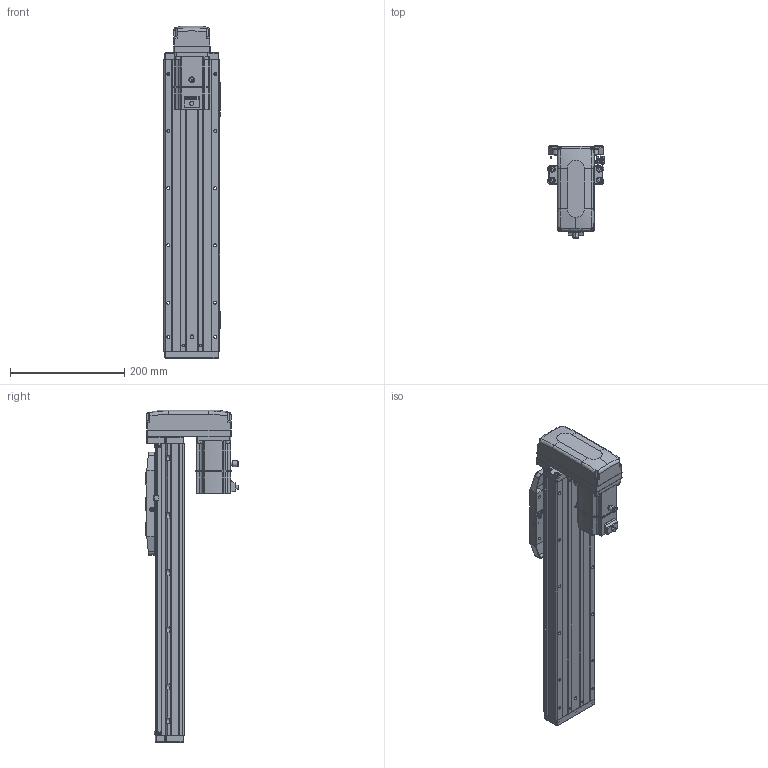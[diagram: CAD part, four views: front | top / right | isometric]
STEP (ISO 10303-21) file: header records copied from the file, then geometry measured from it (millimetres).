
FILE_DESCRIPTION (( 'STEP AP203' ), '1' );
FILE_NAME ('CTHA100-300-BM-M20-C4L.step', '2022-07-06T09:03:35', ( '微软用户' ), ( '微软中国' ), 'SwSTEP 2.0', 'SolidWorks 2020', '' );
FILE_SCHEMA (( 'CONFIG_CONTROL_DESIGN' ));
Length unit declared in the file: millimetre
Products named in the file (19): KTHA100-005; GBT70.1 M5℅16; CTHA86-015-1_CTHA86-015-2; GB¨uT 70.2-M3¡Á5_M3¡Á6; CTHA60-016; CTHA86-033; EE_SX911P_R; _X2_4E0983F1_X0_200W_1; CTHA100-300-BM-M20-C4L; CTHA60-017; CTHA100-002; CTHA60-021; CTHA100-031; KTHA100-001_510; GBT77-2000 M3×3; CTHA86-030; KTHA100-004; GBT 70.1-M3℅6; GBT 70.3-M3℅6
Assembly tree (64 placements, depth 2):
  CTHA100-300-BM-M20-C4L
    KTHA100-001_510
    KTHA100-004
    KTHA100-005
    GB¨uT 70.2-M3¡Á5_M3¡Á6  x10
    EE_SX911P_R  x3
    CTHA60-017  x3
    CTHA60-021  x2
    GBT77-2000 M3×3  x6
    GBT 70.1-M3℅6  x10
    GBT70.1 M5℅16  x14
    CTHA60-016  x2
    _X2_4E0983F1_X0_200W_1
    CTHA100-002
    CTHA100-031
    CTHA86-030  x2
    GBT 70.3-M3℅6  x4
    CTHA86-015-1_CTHA86-015-2
    CTHA86-033
Bounding box: 98.82 x 163.2 x 581 mm (x, y, z)
Volume: 2747833.1 mm3; surface area: 483671 mm2
Topology: 66 solids, 66 shells, 2629 faces, 6303 edges, 3904 vertices
Faces by surface type: plane 1368, cylinder 689, cone 349, torus 124, bspline 75, sphere 24
Entity records: 44700 total; most frequent: CARTESIAN_POINT 8811, DIRECTION 6874, ORIENTED_EDGE 6722, EDGE_CURVE 3361, AXIS2_PLACEMENT_3D 2339, VECTOR 2196, LINE 2196, VERTEX_POINT 2124
